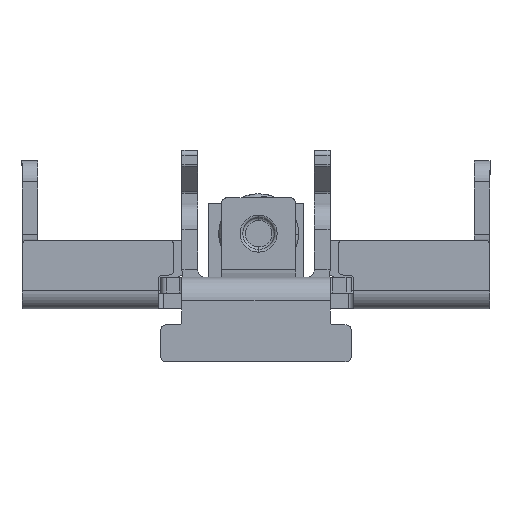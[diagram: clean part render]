
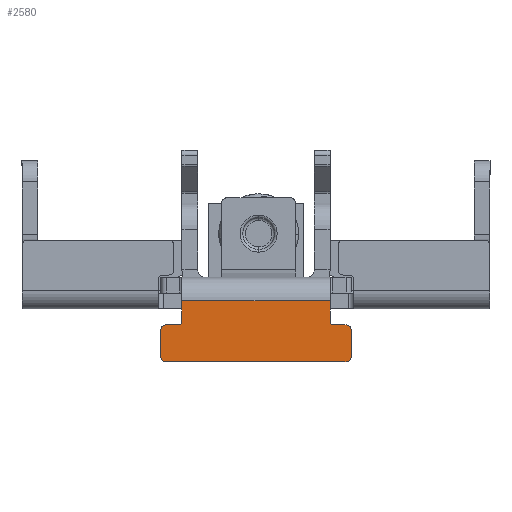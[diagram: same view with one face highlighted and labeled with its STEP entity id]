
A CAD part, front view. The second image highlights one B-rep face of the part: STEP entity #2580.
In plain terms, the highlighted planar face has unit normal (0, -1, 0).
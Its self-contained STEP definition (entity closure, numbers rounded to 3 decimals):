
#110 = CARTESIAN_POINT ( 'NONE',  ( -22.984, -32.571, -0.27 ) ) ;
#213 = CARTESIAN_POINT ( 'NONE',  ( -23.484, -32.571, -3.27 ) ) ;
#403 = ORIENTED_EDGE ( 'NONE', *, *, #11067, .F. ) ;
#464 = VECTOR ( 'NONE', #7003, 1000. ) ;
#486 = CIRCLE ( 'NONE', #3592, 0.5 ) ;
#562 = CARTESIAN_POINT ( 'NONE',  ( -39.234, -32.571, 0.48 ) ) ;
#674 = CARTESIAN_POINT ( 'NONE',  ( -40.484, -32.571, 0.23 ) ) ;
#842 = EDGE_CURVE ( 'NONE', #11746, #10917, #15854, .T. ) ;
#1107 = EDGE_CURVE ( 'NONE', #3323, #11807, #9143, .T. ) ;
#1255 = DIRECTION ( 'NONE',  ( 0., 0., 1. ) ) ;
#1339 = AXIS2_PLACEMENT_3D ( 'NONE', #8087, #6595, #14597 ) ;
#1429 = ORIENTED_EDGE ( 'NONE', *, *, #14808, .T. ) ;
#1817 = EDGE_CURVE ( 'NONE', #11746, #16900, #9480, .T. ) ;
#2003 = DIRECTION ( 'NONE',  ( 0., 0., 1. ) ) ;
#2067 = LINE ( 'NONE', #17108, #12313 ) ;
#2188 = CARTESIAN_POINT ( 'NONE',  ( -24.984, -32.571, 2.494 ) ) ;
#2548 = DIRECTION ( 'NONE',  ( 1., 0., 0. ) ) ;
#2555 = FACE_OUTER_BOUND ( 'NONE', #15860, .T. ) ;
#2580 = ADVANCED_FACE ( 'NONE', ( #2555 ), #10728, .F. ) ;
#2718 = DIRECTION ( 'NONE',  ( 0., -1., 0. ) ) ;
#3141 = VERTEX_POINT ( 'NONE', #14804 ) ;
#3162 = CARTESIAN_POINT ( 'NONE',  ( -40.484, -32.571, -0.27 ) ) ;
#3206 = DIRECTION ( 'NONE',  ( 0., 1., 0. ) ) ;
#3323 = VERTEX_POINT ( 'NONE', #8568 ) ;
#3338 = CARTESIAN_POINT ( 'NONE',  ( -40.984, -32.571, -0.27 ) ) ;
#3354 = CARTESIAN_POINT ( 'NONE',  ( -24.984, -32.571, 0.23 ) ) ;
#3384 = DIRECTION ( 'NONE',  ( 1., 0., 0. ) ) ;
#3490 = LINE ( 'NONE', #9042, #7155 ) ;
#3592 = AXIS2_PLACEMENT_3D ( 'NONE', #16425, #2718, #6849 ) ;
#4247 = CARTESIAN_POINT ( 'NONE',  ( -38.984, -32.571, 0.48 ) ) ;
#4601 = DIRECTION ( 'NONE',  ( 0., 0., 1. ) ) ;
#4733 = AXIS2_PLACEMENT_3D ( 'NONE', #562, #3206, #4601 ) ;
#4748 = CIRCLE ( 'NONE', #16555, 0.5 ) ;
#4921 = CARTESIAN_POINT ( 'NONE',  ( -23.484, -32.571, 0.23 ) ) ;
#5143 = VERTEX_POINT ( 'NONE', #4921 ) ;
#5215 = CARTESIAN_POINT ( 'NONE',  ( -38.984, -32.571, -3.27 ) ) ;
#5386 = EDGE_CURVE ( 'NONE', #3323, #5143, #15386, .T. ) ;
#5485 = EDGE_CURVE ( 'NONE', #3141, #10408, #8633, .T. ) ;
#5523 = AXIS2_PLACEMENT_3D ( 'NONE', #5725, #7062, #11373 ) ;
#5725 = CARTESIAN_POINT ( 'NONE',  ( -40.484, -32.571, -2.77 ) ) ;
#5918 = ORIENTED_EDGE ( 'NONE', *, *, #1107, .T. ) ;
#6080 = VERTEX_POINT ( 'NONE', #2188 ) ;
#6595 = DIRECTION ( 'NONE',  ( 0., 1., 0. ) ) ;
#6849 = DIRECTION ( 'NONE',  ( 0., 0., 1. ) ) ;
#6875 = DIRECTION ( 'NONE',  ( 0., 0., 1. ) ) ;
#7003 = DIRECTION ( 'NONE',  ( 0., 0., -1. ) ) ;
#7062 = DIRECTION ( 'NONE',  ( 0., -1., 0. ) ) ;
#7155 = VECTOR ( 'NONE', #2003, 1000. ) ;
#7833 = ORIENTED_EDGE ( 'NONE', *, *, #1817, .T. ) ;
#7999 = EDGE_CURVE ( 'NONE', #11807, #6080, #3490, .T. ) ;
#8002 = ORIENTED_EDGE ( 'NONE', *, *, #13930, .F. ) ;
#8044 = VERTEX_POINT ( 'NONE', #674 ) ;
#8087 = CARTESIAN_POINT ( 'NONE',  ( -40.984, -32.571, 3.23 ) ) ;
#8101 = ORIENTED_EDGE ( 'NONE', *, *, #5386, .F. ) ;
#8118 = CARTESIAN_POINT ( 'NONE',  ( -24.734, -32.571, 0.48 ) ) ;
#8352 = DIRECTION ( 'NONE',  ( 0., 0., 1. ) ) ;
#8459 = DIRECTION ( 'NONE',  ( 1., 0., 0. ) ) ;
#8568 = CARTESIAN_POINT ( 'NONE',  ( -24.734, -32.571, 0.23 ) ) ;
#8633 = LINE ( 'NONE', #5215, #13021 ) ;
#8851 = DIRECTION ( 'NONE',  ( 1., 0., 0. ) ) ;
#9042 = CARTESIAN_POINT ( 'NONE',  ( -24.984, -32.571, 3.23 ) ) ;
#9143 = CIRCLE ( 'NONE', #10511, 0.25 ) ;
#9480 = CIRCLE ( 'NONE', #5523, 0.5 ) ;
#9548 = VECTOR ( 'NONE', #2548, 1000. ) ;
#9826 = CARTESIAN_POINT ( 'NONE',  ( -22.984, -32.571, -3.27 ) ) ;
#9837 = EDGE_CURVE ( 'NONE', #16900, #13055, #2067, .T. ) ;
#10139 = EDGE_CURVE ( 'NONE', #11480, #5143, #17099, .T. ) ;
#10147 = ORIENTED_EDGE ( 'NONE', *, *, #15794, .T. ) ;
#10385 = ORIENTED_EDGE ( 'NONE', *, *, #10139, .T. ) ;
#10406 = CARTESIAN_POINT ( 'NONE',  ( -40.984, -32.571, -2.77 ) ) ;
#10408 = VERTEX_POINT ( 'NONE', #4247 ) ;
#10511 = AXIS2_PLACEMENT_3D ( 'NONE', #8118, #16191, #6875 ) ;
#10566 = EDGE_CURVE ( 'NONE', #8044, #10917, #4748, .T. ) ;
#10651 = VECTOR ( 'NONE', #3384, 1000. ) ;
#10705 = CARTESIAN_POINT ( 'NONE',  ( -40.484, -32.571, -3.27 ) ) ;
#10728 = PLANE ( 'NONE',  #1339 ) ;
#10831 = ORIENTED_EDGE ( 'NONE', *, *, #9837, .T. ) ;
#10917 = VERTEX_POINT ( 'NONE', #3338 ) ;
#10969 = ORIENTED_EDGE ( 'NONE', *, *, #10566, .T. ) ;
#11028 = CARTESIAN_POINT ( 'NONE',  ( -38.984, -32.571, 0.23 ) ) ;
#11067 = EDGE_CURVE ( 'NONE', #3141, #6080, #17411, .T. ) ;
#11318 = VERTEX_POINT ( 'NONE', #12787 ) ;
#11373 = DIRECTION ( 'NONE',  ( 0., 0., 1. ) ) ;
#11480 = VERTEX_POINT ( 'NONE', #110 ) ;
#11710 = CARTESIAN_POINT ( 'NONE',  ( -24.984, -32.571, 0.48 ) ) ;
#11746 = VERTEX_POINT ( 'NONE', #10406 ) ;
#11807 = VERTEX_POINT ( 'NONE', #11710 ) ;
#12313 = VECTOR ( 'NONE', #8851, 1000. ) ;
#12382 = CARTESIAN_POINT ( 'NONE',  ( -39.234, -32.571, 0.23 ) ) ;
#12429 = LINE ( 'NONE', #11028, #10651 ) ;
#12787 = CARTESIAN_POINT ( 'NONE',  ( -22.984, -32.571, -2.77 ) ) ;
#13021 = VECTOR ( 'NONE', #17019, 1000. ) ;
#13055 = VERTEX_POINT ( 'NONE', #213 ) ;
#13173 = AXIS2_PLACEMENT_3D ( 'NONE', #14798, #14460, #17369 ) ;
#13345 = VECTOR ( 'NONE', #1255, 1000. ) ;
#13704 = DIRECTION ( 'NONE',  ( 0., -1., 0. ) ) ;
#13830 = VECTOR ( 'NONE', #8459, 1000. ) ;
#13844 = LINE ( 'NONE', #9826, #464 ) ;
#13926 = ORIENTED_EDGE ( 'NONE', *, *, #7999, .T. ) ;
#13930 = EDGE_CURVE ( 'NONE', #11480, #11318, #13844, .T. ) ;
#14014 = ORIENTED_EDGE ( 'NONE', *, *, #5485, .T. ) ;
#14363 = CARTESIAN_POINT ( 'NONE',  ( -40.984, -32.571, -3.27 ) ) ;
#14460 = DIRECTION ( 'NONE',  ( 0., -1., 0. ) ) ;
#14597 = DIRECTION ( 'NONE',  ( 1., 0., 0. ) ) ;
#14786 = VERTEX_POINT ( 'NONE', #12382 ) ;
#14798 = CARTESIAN_POINT ( 'NONE',  ( -23.484, -32.571, -0.27 ) ) ;
#14804 = CARTESIAN_POINT ( 'NONE',  ( -38.984, -32.571, 2.494 ) ) ;
#14808 = EDGE_CURVE ( 'NONE', #13055, #11318, #486, .T. ) ;
#15386 = LINE ( 'NONE', #3354, #13830 ) ;
#15642 = ORIENTED_EDGE ( 'NONE', *, *, #15717, .F. ) ;
#15717 = EDGE_CURVE ( 'NONE', #8044, #14786, #12429, .T. ) ;
#15794 = EDGE_CURVE ( 'NONE', #10408, #14786, #16525, .T. ) ;
#15854 = LINE ( 'NONE', #14363, #13345 ) ;
#15860 = EDGE_LOOP ( 'NONE', ( #8002, #10385, #8101, #5918, #13926, #403, #14014, #10147, #15642, #10969, #16193, #7833, #10831, #1429 ) ) ;
#16191 = DIRECTION ( 'NONE',  ( 0., 1., 0. ) ) ;
#16193 = ORIENTED_EDGE ( 'NONE', *, *, #842, .F. ) ;
#16425 = CARTESIAN_POINT ( 'NONE',  ( -23.484, -32.571, -2.77 ) ) ;
#16525 = CIRCLE ( 'NONE', #4733, 0.25 ) ;
#16555 = AXIS2_PLACEMENT_3D ( 'NONE', #3162, #13704, #8352 ) ;
#16900 = VERTEX_POINT ( 'NONE', #10705 ) ;
#17019 = DIRECTION ( 'NONE',  ( 0., 0., -1. ) ) ;
#17099 = CIRCLE ( 'NONE', #13173, 0.5 ) ;
#17108 = CARTESIAN_POINT ( 'NONE',  ( -24.984, -32.571, -3.27 ) ) ;
#17314 = CARTESIAN_POINT ( 'NONE',  ( -40.984, -32.571, 2.494 ) ) ;
#17369 = DIRECTION ( 'NONE',  ( 0., 0., 1. ) ) ;
#17411 = LINE ( 'NONE', #17314, #9548 ) ;
